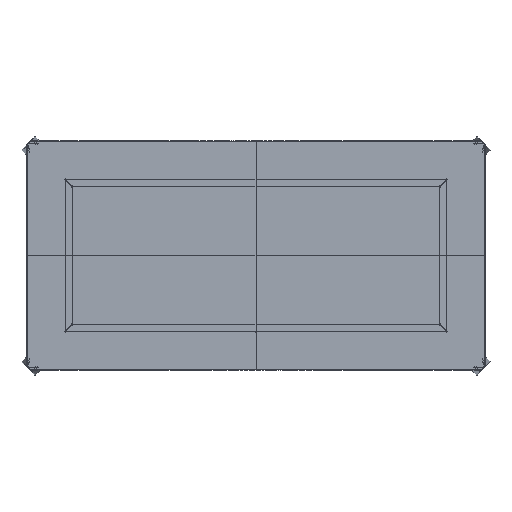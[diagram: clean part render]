
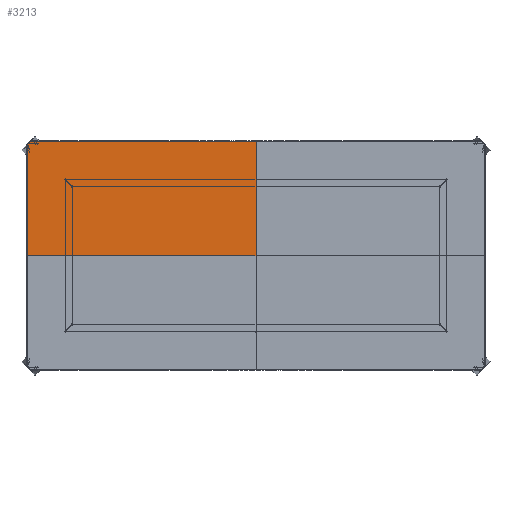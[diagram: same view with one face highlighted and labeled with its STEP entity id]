
A CAD part, top view. The second image highlights one B-rep face of the part: STEP entity #3213.
In plain terms, the highlighted free-form (B-spline) face has degree [1, 1] with [2, 2] control points.
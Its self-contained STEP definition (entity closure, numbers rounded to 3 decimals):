
#106=B_SPLINE_SURFACE_WITH_KNOTS($,1,1,((#37707,#37708),(#37709,#37710)),
.UNSPECIFIED.,.F.,.F.,.F.,(2,2),(2,2),(-419.111,186.889),
(-258.889,44.111),.UNSPECIFIED.);
#3213=ADVANCED_FACE($,(#4351),#106,.T.);
#4351=FACE_OUTER_BOUND($,#5496,.T.);
#5496=EDGE_LOOP($,(#7712,#7713,#7714,#7715,#7716,#7717,#7718,#7719,#7720,
#7721,#7722));
#7712=ORIENTED_EDGE($,*,*,#13364,.T.);
#7713=ORIENTED_EDGE($,*,*,#13365,.T.);
#7714=ORIENTED_EDGE($,*,*,#13366,.T.);
#7715=ORIENTED_EDGE($,*,*,#13367,.T.);
#7716=ORIENTED_EDGE($,*,*,#13368,.T.);
#7717=ORIENTED_EDGE($,*,*,#13369,.T.);
#7718=ORIENTED_EDGE($,*,*,#13370,.T.);
#7719=ORIENTED_EDGE($,*,*,#13371,.T.);
#7720=ORIENTED_EDGE($,*,*,#13372,.T.);
#7721=ORIENTED_EDGE($,*,*,#13373,.T.);
#7722=ORIENTED_EDGE($,*,*,#13374,.T.);
#13364=EDGE_CURVE($,#19016,#19017,#25955,.T.);
#13365=EDGE_CURVE($,#19017,#19018,#25956,.T.);
#13366=EDGE_CURVE($,#19018,#19019,#25957,.T.);
#13367=EDGE_CURVE($,#19019,#19020,#24141,.T.);
#13368=EDGE_CURVE($,#19020,#19021,#25958,.T.);
#13369=EDGE_CURVE($,#19021,#19022,#24142,.T.);
#13370=EDGE_CURVE($,#19022,#19023,#25959,.T.);
#13371=EDGE_CURVE($,#19023,#19024,#25960,.T.);
#13372=EDGE_CURVE($,#19024,#19025,#25961,.T.);
#13373=EDGE_CURVE($,#19025,#19026,#25962,.T.);
#13374=EDGE_CURVE($,#19026,#19016,#25963,.T.);
#19016=VERTEX_POINT($,#37711);
#19017=VERTEX_POINT($,#37712);
#19018=VERTEX_POINT($,#37713);
#19019=VERTEX_POINT($,#37714);
#19020=VERTEX_POINT($,#37715);
#19021=VERTEX_POINT($,#37716);
#19022=VERTEX_POINT($,#37717);
#19023=VERTEX_POINT($,#37718);
#19024=VERTEX_POINT($,#37719);
#19025=VERTEX_POINT($,#37720);
#19026=VERTEX_POINT($,#37721);
#24141=(
BOUNDED_CURVE()
B_SPLINE_CURVE(2,(#37685,#37686,#37687,#37688,#37689,#37690,#37691),.UNSPECIFIED.,
.F.,.F.)
B_SPLINE_CURVE_WITH_KNOTS((3,2,2,3),(0.,0.004,0.015,
0.795),.UNSPECIFIED.)
CURVE()
GEOMETRIC_REPRESENTATION_ITEM()
RATIONAL_B_SPLINE_CURVE((1.,1.,1.,1.,1.,0.925,
1.))
REPRESENTATION_ITEM($)
);
#24142=(
BOUNDED_CURVE()
B_SPLINE_CURVE(2,(#37694,#37695,#37696),.UNSPECIFIED.,.F.,.F.)
B_SPLINE_CURVE_WITH_KNOTS((3,3),(0.,0.795),.UNSPECIFIED.)
CURVE()
GEOMETRIC_REPRESENTATION_ITEM()
RATIONAL_B_SPLINE_CURVE((1.,0.922,1.))
REPRESENTATION_ITEM($)
);
#25955=B_SPLINE_CURVE_WITH_KNOTS($,1,(#37679,#37680),.UNSPECIFIED.,.F.,.F.,
(2,2),(-0.594,0.),.UNSPECIFIED.);
#25956=B_SPLINE_CURVE_WITH_KNOTS($,1,(#37681,#37682),.UNSPECIFIED.,.F.,.F.,
(2,2),(-1.,0.),.UNSPECIFIED.);
#25957=B_SPLINE_CURVE_WITH_KNOTS($,1,(#37683,#37684),.UNSPECIFIED.,.F.,.F.,
(2,2),(0.,1.),.UNSPECIFIED.);
#25958=B_SPLINE_CURVE_WITH_KNOTS($,1,(#37692,#37693),.UNSPECIFIED.,.F.,.F.,
(2,2),(0.,1.),.UNSPECIFIED.);
#25959=B_SPLINE_CURVE_WITH_KNOTS($,1,(#37697,#37698),.UNSPECIFIED.,.F.,.F.,
(2,2),(0.,1.),.UNSPECIFIED.);
#25960=B_SPLINE_CURVE_WITH_KNOTS($,1,(#37699,#37700),.UNSPECIFIED.,.F.,.F.,
(2,2),(-1.,0.),.UNSPECIFIED.);
#25961=B_SPLINE_CURVE_WITH_KNOTS($,1,(#37701,#37702),.UNSPECIFIED.,.F.,.F.,
(2,2),(-1.,-0.711),.UNSPECIFIED.);
#25962=B_SPLINE_CURVE_WITH_KNOTS($,1,(#37703,#37704),.UNSPECIFIED.,.F.,.F.,
(2,2),(2.118,600.),.UNSPECIFIED.);
#25963=B_SPLINE_CURVE_WITH_KNOTS($,1,(#37705,#37706),.UNSPECIFIED.,.F.,.F.,
(2,2),(-900.,-602.118),.UNSPECIFIED.);
#37679=CARTESIAN_POINT($,(-419.111,166.877,757.078));
#37680=CARTESIAN_POINT($,(-1003.791,166.877,757.078));
#37681=CARTESIAN_POINT($,(-1003.791,166.877,757.078));
#37682=CARTESIAN_POINT($,(-1005.291,166.877,757.078));
#37683=CARTESIAN_POINT($,(-1005.291,166.877,757.078));
#37684=CARTESIAN_POINT($,(-1006.062,168.995,757.078));
#37685=CARTESIAN_POINT($,(-1006.062,168.995,757.078));
#37686=CARTESIAN_POINT($,(-1006.067,168.995,757.078));
#37687=CARTESIAN_POINT($,(-1006.073,168.995,757.078));
#37688=CARTESIAN_POINT($,(-1006.091,168.995,757.078));
#37689=CARTESIAN_POINT($,(-1006.108,168.995,757.078));
#37690=CARTESIAN_POINT($,(-1007.34,168.988,757.078));
#37691=CARTESIAN_POINT($,(-1008.212,168.117,757.078));
#37692=CARTESIAN_POINT($,(-1008.212,168.117,757.078));
#37693=CARTESIAN_POINT($,(-1018.232,158.096,757.078));
#37694=CARTESIAN_POINT($,(-1018.232,158.096,757.078));
#37695=CARTESIAN_POINT($,(-1019.123,157.205,757.078));
#37696=CARTESIAN_POINT($,(-1019.111,155.946,757.078));
#37697=CARTESIAN_POINT($,(-1019.111,155.946,757.078));
#37698=CARTESIAN_POINT($,(-1016.993,155.175,757.078));
#37699=CARTESIAN_POINT($,(-1016.993,155.175,757.078));
#37700=CARTESIAN_POINT($,(-1016.993,153.675,757.078));
#37701=CARTESIAN_POINT($,(-1016.993,153.675,757.078));
#37702=CARTESIAN_POINT($,(-1016.993,-131.005,757.078));
#37703=CARTESIAN_POINT($,(-1016.993,-131.005,757.078));
#37704=CARTESIAN_POINT($,(-419.111,-131.005,757.078));
#37705=CARTESIAN_POINT($,(-419.111,-131.005,757.078));
#37706=CARTESIAN_POINT($,(-419.111,166.877,757.078));
#37707=CARTESIAN_POINT($,(-419.111,171.996,757.078));
#37708=CARTESIAN_POINT($,(-419.111,-131.005,757.078));
#37709=CARTESIAN_POINT($,(-1025.111,171.996,757.078));
#37710=CARTESIAN_POINT($,(-1025.111,-131.005,757.078));
#37711=CARTESIAN_POINT($,(-419.111,166.877,757.078));
#37712=CARTESIAN_POINT($,(-1003.791,166.877,757.078));
#37713=CARTESIAN_POINT($,(-1005.291,166.877,757.078));
#37714=CARTESIAN_POINT($,(-1006.062,168.995,757.078));
#37715=CARTESIAN_POINT($,(-1008.212,168.117,757.078));
#37716=CARTESIAN_POINT($,(-1018.232,158.096,757.078));
#37717=CARTESIAN_POINT($,(-1019.111,155.946,757.078));
#37718=CARTESIAN_POINT($,(-1016.993,155.175,757.078));
#37719=CARTESIAN_POINT($,(-1016.993,153.675,757.078));
#37720=CARTESIAN_POINT($,(-1016.993,-131.005,757.078));
#37721=CARTESIAN_POINT($,(-419.111,-131.005,757.078));
